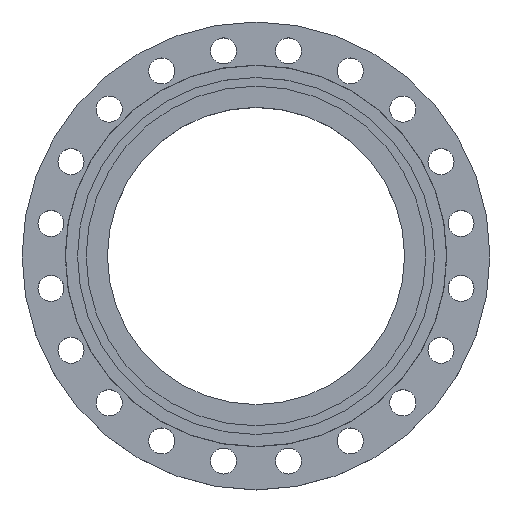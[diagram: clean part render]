
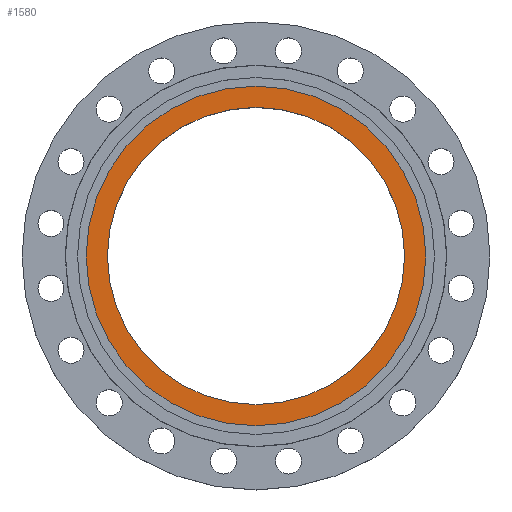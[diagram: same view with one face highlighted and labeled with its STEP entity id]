
A CAD part, top view. The second image highlights one B-rep face of the part: STEP entity #1580.
In plain terms, the highlighted planar face has unit normal (0, 0, 1).
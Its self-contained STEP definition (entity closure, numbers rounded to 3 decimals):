
#44 = ORIENTED_EDGE ( 'NONE', *, *, #312, .T. ) ;
#170 = PLANE ( 'NONE',  #1006 ) ;
#230 = AXIS2_PLACEMENT_3D ( 'NONE', #1522, #2119, #636 ) ;
#231 = ORIENTED_EDGE ( 'NONE', *, *, #1808, .F. ) ;
#250 = CIRCLE ( 'NONE', #230, 239.8 ) ;
#254 = AXIS2_PLACEMENT_3D ( 'NONE', #818, #1535, #2129 ) ;
#275 = CARTESIAN_POINT ( 'NONE',  ( 0., 0., 0. ) ) ;
#312 = EDGE_CURVE ( 'NONE', #1095, #2020, #472, .T. ) ;
#472 = CIRCLE ( 'NONE', #474, 239.8 ) ;
#474 = AXIS2_PLACEMENT_3D ( 'NONE', #275, #987, #1668 ) ;
#598 = AXIS2_PLACEMENT_3D ( 'NONE', #1513, #2110, #625 ) ;
#625 = DIRECTION ( 'NONE',  ( -1., 0., 0. ) ) ;
#636 = DIRECTION ( 'NONE',  ( -1., 0., 0. ) ) ;
#641 = CARTESIAN_POINT ( 'NONE',  ( -239.8, 0., 0. ) ) ;
#818 = CARTESIAN_POINT ( 'NONE',  ( 0., 0., 0. ) ) ;
#874 = CARTESIAN_POINT ( 'NONE',  ( 0., 0., 0. ) ) ;
#934 = CIRCLE ( 'NONE', #254, 274. ) ;
#955 = CARTESIAN_POINT ( 'NONE',  ( 274., 0., 0. ) ) ;
#987 = DIRECTION ( 'NONE',  ( 0., 0., -1. ) ) ;
#1006 = AXIS2_PLACEMENT_3D ( 'NONE', #874, #1581, #2167 ) ;
#1033 = EDGE_LOOP ( 'NONE', ( #1656, #44 ) ) ;
#1058 = FACE_BOUND ( 'NONE', #1033, .T. ) ;
#1095 = VERTEX_POINT ( 'NONE', #1519 ) ;
#1213 = EDGE_LOOP ( 'NONE', ( #1447, #231 ) ) ;
#1344 = VERTEX_POINT ( 'NONE', #955 ) ;
#1386 = CIRCLE ( 'NONE', #598, 274. ) ;
#1447 = ORIENTED_EDGE ( 'NONE', *, *, #1768, .F. ) ;
#1513 = CARTESIAN_POINT ( 'NONE',  ( 0., 0., 0. ) ) ;
#1519 = CARTESIAN_POINT ( 'NONE',  ( 239.8, 0., 0. ) ) ;
#1522 = CARTESIAN_POINT ( 'NONE',  ( 0., 0., 0. ) ) ;
#1535 = DIRECTION ( 'NONE',  ( 0., 0., -1. ) ) ;
#1580 = ADVANCED_FACE ( 'NONE', ( #1058, #1728 ), #170, .T. ) ;
#1581 = DIRECTION ( 'NONE',  ( 0., 0., 1. ) ) ;
#1656 = ORIENTED_EDGE ( 'NONE', *, *, #1795, .T. ) ;
#1668 = DIRECTION ( 'NONE',  ( -1., 0., 0. ) ) ;
#1691 = VERTEX_POINT ( 'NONE', #2087 ) ;
#1728 = FACE_OUTER_BOUND ( 'NONE', #1213, .T. ) ;
#1768 = EDGE_CURVE ( 'NONE', #1691, #1344, #1386, .T. ) ;
#1795 = EDGE_CURVE ( 'NONE', #2020, #1095, #250, .T. ) ;
#1808 = EDGE_CURVE ( 'NONE', #1344, #1691, #934, .T. ) ;
#2020 = VERTEX_POINT ( 'NONE', #641 ) ;
#2087 = CARTESIAN_POINT ( 'NONE',  ( -274., 0., 0. ) ) ;
#2110 = DIRECTION ( 'NONE',  ( 0., 0., -1. ) ) ;
#2119 = DIRECTION ( 'NONE',  ( 0., 0., -1. ) ) ;
#2129 = DIRECTION ( 'NONE',  ( -1., 0., 0. ) ) ;
#2167 = DIRECTION ( 'NONE',  ( 1., 0., 0. ) ) ;
